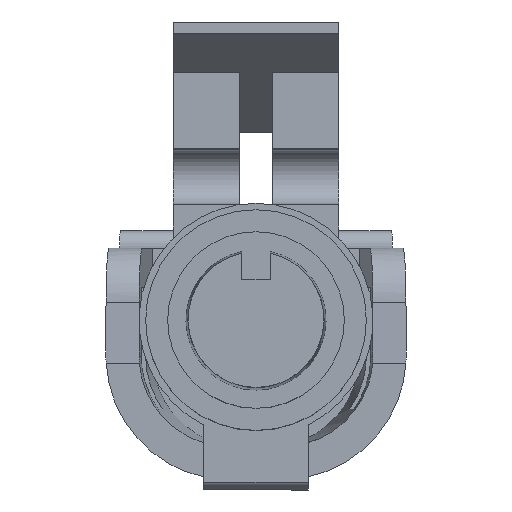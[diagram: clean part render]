
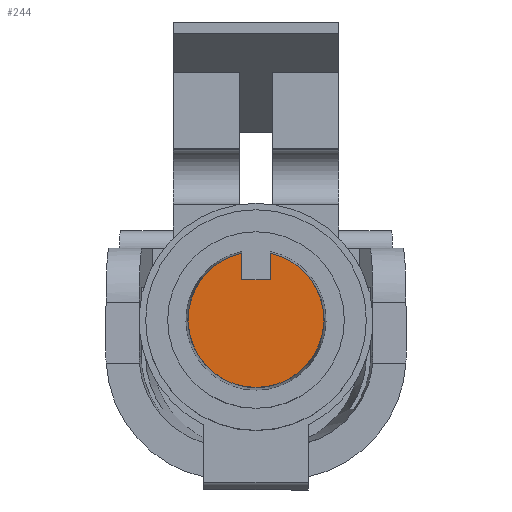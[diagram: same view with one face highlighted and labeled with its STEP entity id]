
A CAD part, top view. The second image highlights one B-rep face of the part: STEP entity #244.
In plain terms, the highlighted planar face has unit normal (0, 0, 1).
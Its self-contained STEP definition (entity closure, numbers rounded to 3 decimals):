
#118=CIRCLE('',#2372,3.075);
#244=ADVANCED_FACE('',(#436),#338,.T.);
#338=PLANE('',#2373);
#436=FACE_OUTER_BOUND('',#552,.T.);
#552=EDGE_LOOP('',(#1113,#1114,#1115,#1116));
#1113=ORIENTED_EDGE('',*,*,#1723,.T.);
#1114=ORIENTED_EDGE('',*,*,#1724,.T.);
#1115=ORIENTED_EDGE('',*,*,#1725,.F.);
#1116=ORIENTED_EDGE('',*,*,#1726,.F.);
#1425=VERTEX_POINT('',#3615);
#1426=VERTEX_POINT('',#3616);
#1427=VERTEX_POINT('',#3618);
#1428=VERTEX_POINT('',#3620);
#1723=EDGE_CURVE('',#1425,#1426,#118,.T.);
#1724=EDGE_CURVE('',#1426,#1427,#1960,.T.);
#1725=EDGE_CURVE('',#1428,#1427,#1961,.T.);
#1726=EDGE_CURVE('',#1425,#1428,#1962,.T.);
#1960=LINE('',#3617,#2176);
#1961=LINE('',#3619,#2177);
#1962=LINE('',#3621,#2178);
#2176=VECTOR('',#2905,1.);
#2177=VECTOR('',#2906,1.);
#2178=VECTOR('',#2907,1.);
#2372=AXIS2_PLACEMENT_3D('',#3614,#2903,#2904);
#2373=AXIS2_PLACEMENT_3D('',#3622,#2908,#2909);
#2903=DIRECTION('',(0.,0.,1.));
#2904=DIRECTION('',(0.,1.,0.));
#2905=DIRECTION('',(0.,-1.,0.));
#2906=DIRECTION('',(1.,0.,0.));
#2907=DIRECTION('',(0.,-1.,0.));
#2908=DIRECTION('',(0.,0.,1.));
#2909=DIRECTION('',(0.,1.,0.));
#3614=CARTESIAN_POINT('',(0.,0.,14.));
#3615=CARTESIAN_POINT('',(-0.65,3.006,14.));
#3616=CARTESIAN_POINT('',(0.65,3.006,14.));
#3617=CARTESIAN_POINT('',(0.65,0.,14.));
#3618=CARTESIAN_POINT('',(0.65,1.8,14.));
#3619=CARTESIAN_POINT('',(0.,1.8,14.));
#3620=CARTESIAN_POINT('',(-0.65,1.8,14.));
#3621=CARTESIAN_POINT('',(-0.65,0.,14.));
#3622=CARTESIAN_POINT('',(0.,0.,14.));
